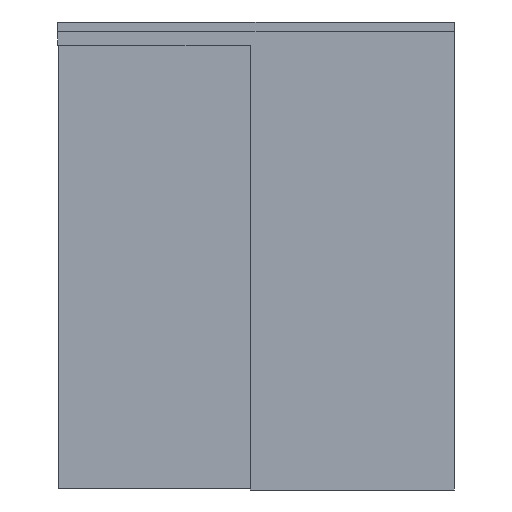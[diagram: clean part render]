
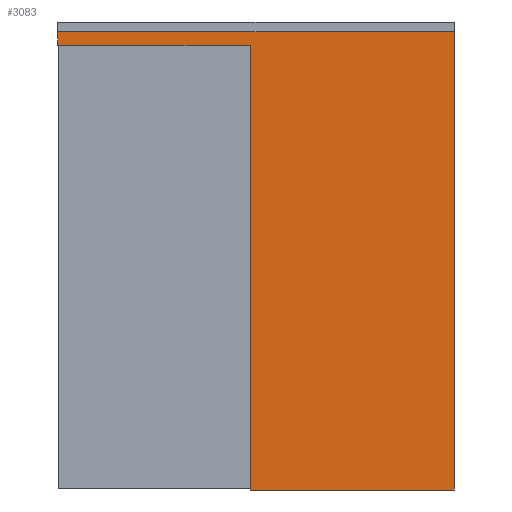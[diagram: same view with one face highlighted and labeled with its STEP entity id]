
A CAD part, front view. The second image highlights one B-rep face of the part: STEP entity #3083.
In plain terms, the highlighted planar face has unit normal (0, -1, 0).
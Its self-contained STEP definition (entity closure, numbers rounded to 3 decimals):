
#3083=ADVANCED_FACE('',(#6240),#6241,.F.);
#6240=FACE_OUTER_BOUND('',#9369,.T.);
#6241=PLANE('',#9370);
#9369=EDGE_LOOP('',(#17754,#17755,#17756,#17757,#17758,#17759));
#9370=AXIS2_PLACEMENT_3D('',#17760,#17761,#17762);
#17754=ORIENTED_EDGE('',*,*,#21722,.T.);
#17755=ORIENTED_EDGE('',*,*,#21712,.F.);
#17756=ORIENTED_EDGE('',*,*,#21716,.F.);
#17757=ORIENTED_EDGE('',*,*,#21720,.T.);
#17758=ORIENTED_EDGE('',*,*,#21723,.F.);
#17759=ORIENTED_EDGE('',*,*,#21724,.F.);
#17760=CARTESIAN_POINT('',(0.0,-44.,2333.0));
#17761=DIRECTION('',(0.0,1.0,-0.0));
#17762=DIRECTION('',(0.0,0.0,1.0));
#21712=EDGE_CURVE('',#26664,#26659,#26666,.T.);
#21716=EDGE_CURVE('',#26670,#26664,#26672,.T.);
#21720=EDGE_CURVE('',#26670,#26676,#26678,.T.);
#21722=EDGE_CURVE('',#26680,#26659,#26681,.T.);
#21723=EDGE_CURVE('',#26682,#26676,#26683,.T.);
#21724=EDGE_CURVE('',#26680,#26682,#26684,.T.);
#26659=VERTEX_POINT('',#33360);
#26664=VERTEX_POINT('',#33367);
#26666=LINE('',#33370,#33371);
#26670=VERTEX_POINT('',#33376);
#26672=LINE('',#33379,#33380);
#26676=VERTEX_POINT('',#33385);
#26678=LINE('',#33388,#33389);
#26680=VERTEX_POINT('',#33391);
#26681=LINE('',#33392,#33393);
#26682=VERTEX_POINT('',#33394);
#26683=LINE('',#33395,#33396);
#26684=LINE('',#33397,#33398);
#33360=CARTESIAN_POINT('',(995.0,-44.,2298.0));
#33367=CARTESIAN_POINT('',(995.0,-44.,0.0));
#33370=CARTESIAN_POINT('',(995.0,-44.,7.0));
#33371=VECTOR('',#37997,1.0);
#33376=CARTESIAN_POINT('',(2050.0,-44.,0.0));
#33379=CARTESIAN_POINT('',(1327.5,-44.,0.0));
#33380=VECTOR('',#38000,1.0);
#33385=CARTESIAN_POINT('',(2050.0,-44.,2368.0));
#33388=CARTESIAN_POINT('',(2050.0,-44.,7.0));
#33389=VECTOR('',#38003,1.0);
#33391=CARTESIAN_POINT('',(0.0,-44.,2298.0));
#33392=CARTESIAN_POINT('',(0.0,-44.,2298.0));
#33393=VECTOR('',#38004,1.0);
#33394=CARTESIAN_POINT('',(0.0,-44.,2368.0));
#33395=CARTESIAN_POINT('',(1270.0,-44.,2368.0));
#33396=VECTOR('',#38005,1.0);
#33397=CARTESIAN_POINT('',(0.0,-44.,2301.0));
#33398=VECTOR('',#38006,1.0);
#37997=DIRECTION('',(0.0,0.0,1.0));
#38000=DIRECTION('',(-1.0,0.0,0.0));
#38003=DIRECTION('',(0.0,0.0,1.0));
#38004=DIRECTION('',(1.0,0.0,0.0));
#38005=DIRECTION('',(1.0,0.0,0.0));
#38006=DIRECTION('',(0.0,0.0,1.0));
